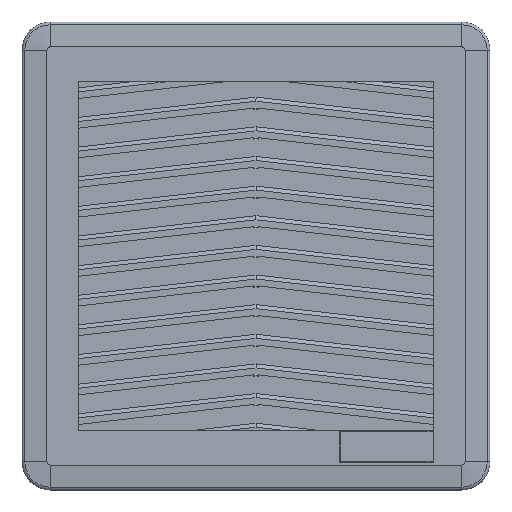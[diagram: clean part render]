
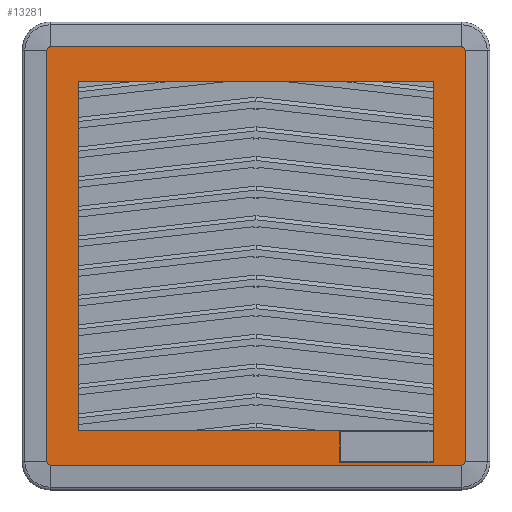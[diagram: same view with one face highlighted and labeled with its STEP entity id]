
A CAD part, top view. The second image highlights one B-rep face of the part: STEP entity #13281.
In plain terms, the highlighted planar face has unit normal (0, 0, 1).
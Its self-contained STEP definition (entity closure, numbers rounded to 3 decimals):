
#768 = ORIENTED_EDGE ( 'NONE', *, *, #7461, .F. ) ;
#883 = VERTEX_POINT ( 'NONE', #6191 ) ;
#1111 = LINE ( 'NONE', #21955, #21230 ) ;
#1123 = LINE ( 'NONE', #26715, #29853 ) ;
#1207 = VECTOR ( 'NONE', #6717, 1000. ) ;
#1265 = EDGE_CURVE ( 'NONE', #17254, #10120, #5352, .T. ) ;
#1479 = CARTESIAN_POINT ( 'NONE',  ( 67.9, -67., 5.2 ) ) ;
#1585 = CARTESIAN_POINT ( 'NONE',  ( -54.1, 57., 5.2 ) ) ;
#2352 = DIRECTION ( 'NONE',  ( 1., 0., 0. ) ) ;
#2579 = DIRECTION ( 'NONE',  ( 0., 0., 1. ) ) ;
#2761 = CARTESIAN_POINT ( 'NONE',  ( -65.1, -67., 5.2 ) ) ;
#3382 = DIRECTION ( 'NONE',  ( 0., 0., -1. ) ) ;
#3553 = ORIENTED_EDGE ( 'NONE', *, *, #10391, .F. ) ;
#3581 = ORIENTED_EDGE ( 'NONE', *, *, #17541, .T. ) ;
#4161 = EDGE_CURVE ( 'NONE', #32489, #28857, #1111, .T. ) ;
#4196 = LINE ( 'NONE', #25006, #4348 ) ;
#4348 = VECTOR ( 'NONE', #22637, 1000. ) ;
#4699 = DIRECTION ( 'NONE',  ( 0., 0., -1. ) ) ;
#5160 = FACE_OUTER_BOUND ( 'NONE', #33417, .T. ) ;
#5352 = CIRCLE ( 'NONE', #28189, 1. ) ;
#5964 = CIRCLE ( 'NONE', #15220, 1. ) ;
#6191 = CARTESIAN_POINT ( 'NONE',  ( -54.1, -26.7, 5.2 ) ) ;
#6302 = EDGE_CURVE ( 'NONE', #883, #32489, #13317, .T. ) ;
#6717 = DIRECTION ( 'NONE',  ( 0., 1., 0. ) ) ;
#7431 = CARTESIAN_POINT ( 'NONE',  ( -64.1, -66., 5.2 ) ) ;
#7461 = EDGE_CURVE ( 'NONE', #22531, #7664, #16032, .T. ) ;
#7664 = VERTEX_POINT ( 'NONE', #1479 ) ;
#7694 = ORIENTED_EDGE ( 'NONE', *, *, #23785, .F. ) ;
#7700 = CARTESIAN_POINT ( 'NONE',  ( -64.25, -26.7, 5.2 ) ) ;
#8570 = VERTEX_POINT ( 'NONE', #12292 ) ;
#9215 = ORIENTED_EDGE ( 'NONE', *, *, #29653, .T. ) ;
#9271 = LINE ( 'NONE', #32955, #1207 ) ;
#9721 = CARTESIAN_POINT ( 'NONE',  ( -64.1, 67., 5.2 ) ) ;
#9841 = DIRECTION ( 'NONE',  ( 1., 0., 0. ) ) ;
#10057 = DIRECTION ( 'NONE',  ( -1., 0., 0. ) ) ;
#10119 = PLANE ( 'NONE',  #32050 ) ;
#10120 = VERTEX_POINT ( 'NONE', #9721 ) ;
#10372 = AXIS2_PLACEMENT_3D ( 'NONE', #19943, #17366, #27412 ) ;
#10391 = EDGE_CURVE ( 'NONE', #16453, #20720, #20629, .T. ) ;
#10760 = DIRECTION ( 'NONE',  ( -1., 0., 0. ) ) ;
#11087 = CARTESIAN_POINT ( 'NONE',  ( 67.9, -66., 5.2 ) ) ;
#12252 = EDGE_CURVE ( 'NONE', #8570, #10120, #1123, .T. ) ;
#12292 = CARTESIAN_POINT ( 'NONE',  ( 67.9, 67., 5.2 ) ) ;
#12812 = CARTESIAN_POINT ( 'NONE',  ( 68.9, 66., 5.2 ) ) ;
#13281 = ADVANCED_FACE ( 'NONE', ( #15420, #5160 ), #10119, .T. ) ;
#13317 = LINE ( 'NONE', #7700, #29580 ) ;
#13685 = ORIENTED_EDGE ( 'NONE', *, *, #33334, .F. ) ;
#14390 = AXIS2_PLACEMENT_3D ( 'NONE', #11087, #3382, #26740 ) ;
#14733 = ORIENTED_EDGE ( 'NONE', *, *, #4161, .F. ) ;
#14805 = ORIENTED_EDGE ( 'NONE', *, *, #6302, .F. ) ;
#14999 = DIRECTION ( 'NONE',  ( 0., 1., 0. ) ) ;
#15220 = AXIS2_PLACEMENT_3D ( 'NONE', #7431, #4699, #9841 ) ;
#15324 = ORIENTED_EDGE ( 'NONE', *, *, #12252, .T. ) ;
#15420 = FACE_BOUND ( 'NONE', #33644, .T. ) ;
#15631 = CARTESIAN_POINT ( 'NONE',  ( -64.25, -57., 5.2 ) ) ;
#15687 = CARTESIAN_POINT ( 'NONE',  ( 2.082, 57., 5.2 ) ) ;
#16032 = CIRCLE ( 'NONE', #14390, 1. ) ;
#16403 = CARTESIAN_POINT ( 'NONE',  ( -64.1, 66., 5.2 ) ) ;
#16449 = CARTESIAN_POINT ( 'NONE',  ( 57.9, 57., 5.2 ) ) ;
#16453 = VERTEX_POINT ( 'NONE', #16449 ) ;
#16728 = ORIENTED_EDGE ( 'NONE', *, *, #32438, .T. ) ;
#16901 = DIRECTION ( 'NONE',  ( 1., 0., 0. ) ) ;
#16915 = VERTEX_POINT ( 'NONE', #18450 ) ;
#17153 = VERTEX_POINT ( 'NONE', #24885 ) ;
#17254 = VERTEX_POINT ( 'NONE', #30679 ) ;
#17366 = DIRECTION ( 'NONE',  ( 0., 0., -1. ) ) ;
#17541 = EDGE_CURVE ( 'NONE', #17254, #18175, #23835, .T. ) ;
#18175 = VERTEX_POINT ( 'NONE', #22231 ) ;
#18329 = EDGE_CURVE ( 'NONE', #883, #20720, #9271, .T. ) ;
#18450 = CARTESIAN_POINT ( 'NONE',  ( -64.1, -67., 5.2 ) ) ;
#18699 = ORIENTED_EDGE ( 'NONE', *, *, #22644, .F. ) ;
#18755 = DIRECTION ( 'NONE',  ( 0., -1., 0. ) ) ;
#18784 = DIRECTION ( 'NONE',  ( 0., 0., -1. ) ) ;
#19212 = VECTOR ( 'NONE', #18755, 1000. ) ;
#19943 = CARTESIAN_POINT ( 'NONE',  ( 67.9, 66., 5.2 ) ) ;
#20046 = ORIENTED_EDGE ( 'NONE', *, *, #28774, .F. ) ;
#20146 = VECTOR ( 'NONE', #21794, 1000. ) ;
#20371 = VECTOR ( 'NONE', #14999, 1000. ) ;
#20629 = LINE ( 'NONE', #15687, #31973 ) ;
#20720 = VERTEX_POINT ( 'NONE', #1585 ) ;
#21230 = VECTOR ( 'NONE', #32329, 1000. ) ;
#21794 = DIRECTION ( 'NONE',  ( 1., 0., 0. ) ) ;
#21955 = CARTESIAN_POINT ( 'NONE',  ( -64.25, -26.7, 5.2 ) ) ;
#22231 = CARTESIAN_POINT ( 'NONE',  ( -65.1, -66., 5.2 ) ) ;
#22531 = VERTEX_POINT ( 'NONE', #31510 ) ;
#22637 = DIRECTION ( 'NONE',  ( 0., 1., 0. ) ) ;
#22644 = EDGE_CURVE ( 'NONE', #28857, #17153, #25722, .T. ) ;
#23785 = EDGE_CURVE ( 'NONE', #17153, #16453, #30823, .T. ) ;
#23835 = LINE ( 'NONE', #32200, #19212 ) ;
#24159 = LINE ( 'NONE', #24317, #20146 ) ;
#24317 = CARTESIAN_POINT ( 'NONE',  ( 1.9, -67., 5.2 ) ) ;
#24885 = CARTESIAN_POINT ( 'NONE',  ( 57.9, -57., 5.2 ) ) ;
#25006 = CARTESIAN_POINT ( 'NONE',  ( 68.9, 0., 5.2 ) ) ;
#25722 = LINE ( 'NONE', #28773, #32276 ) ;
#25789 = DIRECTION ( 'NONE',  ( 1., 0., 0. ) ) ;
#25875 = CARTESIAN_POINT ( 'NONE',  ( 57.9, 0., 5.2 ) ) ;
#26308 = VERTEX_POINT ( 'NONE', #12812 ) ;
#26715 = CARTESIAN_POINT ( 'NONE',  ( 1.9, 67., 5.2 ) ) ;
#26740 = DIRECTION ( 'NONE',  ( 1., 0., 0. ) ) ;
#26768 = ORIENTED_EDGE ( 'NONE', *, *, #1265, .F. ) ;
#27033 = CARTESIAN_POINT ( 'NONE',  ( -64.25, -26.7, 5.2 ) ) ;
#27412 = DIRECTION ( 'NONE',  ( 1., 0., 0. ) ) ;
#28189 = AXIS2_PLACEMENT_3D ( 'NONE', #16403, #18784, #16901 ) ;
#28773 = CARTESIAN_POINT ( 'NONE',  ( 2.082, -57., 5.2 ) ) ;
#28774 = EDGE_CURVE ( 'NONE', #16915, #18175, #5964, .T. ) ;
#28857 = VERTEX_POINT ( 'NONE', #15631 ) ;
#29580 = VECTOR ( 'NONE', #10760, 1000. ) ;
#29653 = EDGE_CURVE ( 'NONE', #22531, #26308, #4196, .T. ) ;
#29853 = VECTOR ( 'NONE', #31994, 1000. ) ;
#30488 = CIRCLE ( 'NONE', #10372, 1. ) ;
#30679 = CARTESIAN_POINT ( 'NONE',  ( -65.1, 66., 5.2 ) ) ;
#30823 = LINE ( 'NONE', #25875, #20371 ) ;
#31510 = CARTESIAN_POINT ( 'NONE',  ( 68.9, -66., 5.2 ) ) ;
#31973 = VECTOR ( 'NONE', #10057, 1000. ) ;
#31994 = DIRECTION ( 'NONE',  ( -1., 0., 0. ) ) ;
#32050 = AXIS2_PLACEMENT_3D ( 'NONE', #2761, #2579, #25789 ) ;
#32200 = CARTESIAN_POINT ( 'NONE',  ( -65.1, 0., 5.2 ) ) ;
#32276 = VECTOR ( 'NONE', #2352, 1000. ) ;
#32329 = DIRECTION ( 'NONE',  ( 0., -1., 0. ) ) ;
#32438 = EDGE_CURVE ( 'NONE', #16915, #7664, #24159, .T. ) ;
#32489 = VERTEX_POINT ( 'NONE', #27033 ) ;
#32955 = CARTESIAN_POINT ( 'NONE',  ( -54.1, 0., 5.2 ) ) ;
#33012 = ORIENTED_EDGE ( 'NONE', *, *, #18329, .T. ) ;
#33334 = EDGE_CURVE ( 'NONE', #8570, #26308, #30488, .T. ) ;
#33417 = EDGE_LOOP ( 'NONE', ( #16728, #768, #9215, #13685, #15324, #26768, #3581, #20046 ) ) ;
#33644 = EDGE_LOOP ( 'NONE', ( #14805, #33012, #3553, #7694, #18699, #14733 ) ) ;
